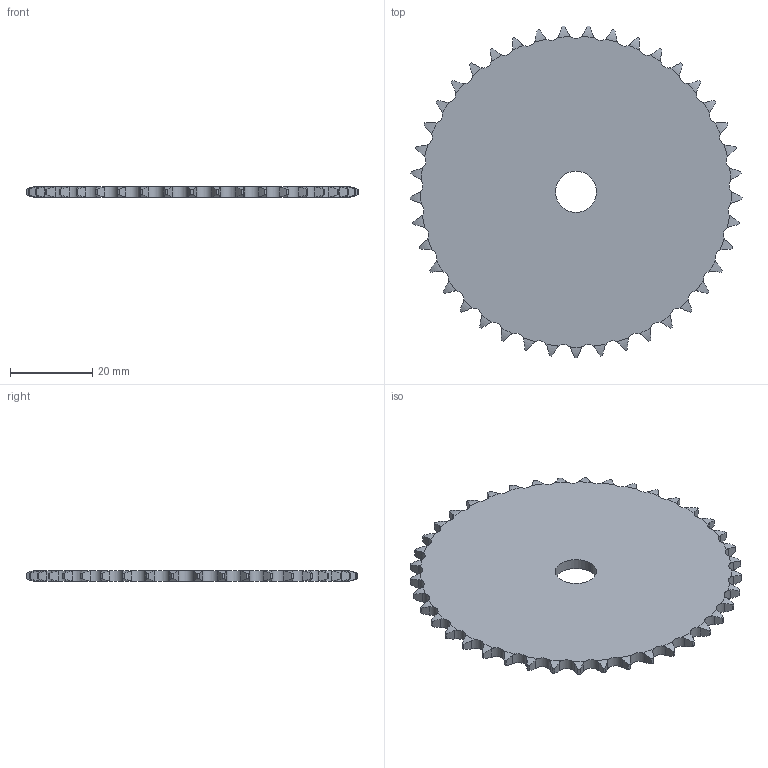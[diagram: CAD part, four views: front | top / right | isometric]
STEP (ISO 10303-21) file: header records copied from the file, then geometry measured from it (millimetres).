
FILE_DESCRIPTION((''),'2;1');
FILE_NAME('500-061-0041_PRT','2021-02-12T',('Brieden'),('Brieden'),'PRO/ENGINEER BY PARAMETRIC TECHNOLOGY CORPORATION, 2010160','PRO/ENGINEER BY PARAMETRIC TECHNOLOGY CORPORATION, 2010160','');
FILE_SCHEMA(('AUTOMOTIVE_DESIGN { 1 0 10303 214 1 1 1 1 }'));
Length unit declared in the file: millimetre
Products named in the file (1): 500-061-0041_PRT
Bounding box: 80.57 x 80.52 x 2.6 mm (x, y, z)
Volume: 11732 mm3; surface area: 10028.8 mm2
Topology: 1 solids, 1 shells, 250 faces, 744 edges, 496 vertices
Faces by surface type: cylinder 166, torus 82, plane 2
Entity records: 11618 total; most frequent: CARTESIAN_POINT 3003, ORIENTED_EDGE 1488, DIRECTION 1166, PRESENTATION_STYLE_ASSIGNMENT 745, STYLED_ITEM 745, CURVE_STYLE 744, EDGE_CURVE 744, AXIS2_PLACEMENT_3D 500
